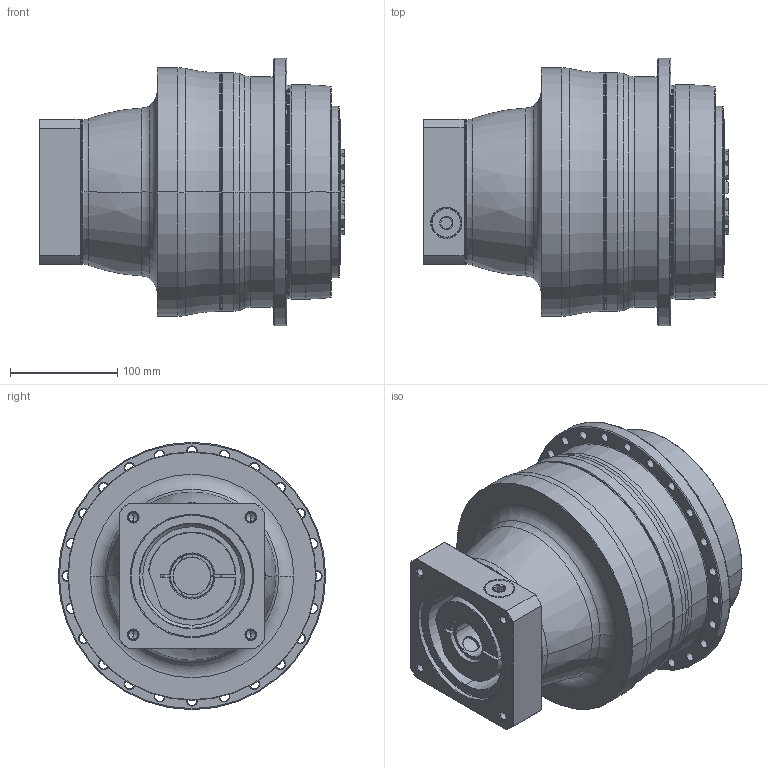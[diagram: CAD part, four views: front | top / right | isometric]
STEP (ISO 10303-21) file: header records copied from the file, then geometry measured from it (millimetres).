
FILE_DESCRIPTION((''),'2;1');
FILE_NAME('APC200_3ST_35-P0409800201_ASM','2018-07-05T',('d01226'),(''),'PRO/ENGINEER BY PARAMETRIC TECHNOLOGY CORPORATION, 2008410','PRO/ENGINEER BY PARAMETRIC TECHNOLOGY CORPORATION, 2008410','');
FILE_SCHEMA(('CONFIG_CONTROL_DESIGN'));
Length unit declared in the file: millimetre
Products named in the file (9): P0278601003; P0359660103; P1366600401; P0503800012; P0912404001; P1211600001; P0409800201; 21711422019; APC200_3ST_35-P0409800201_ASM
Assembly tree (8 placements, depth 2):
  APC200_3ST_35-P0409800201_ASM
    P0278601003
    P0359660103
    P1366600401
    P0503800012
    P0912404001
    P1211600001
    P0409800201
    21711422019
Bounding box: 285.1 x 249.5 x 249.5 mm (x, y, z)
Volume: 8079191.9 mm3; surface area: 563186.2 mm2
Topology: 9 solids, 19 shells, 676 faces, 1615 edges, 979 vertices
Faces by surface type: cone 224, cylinder 208, plane 120, torus 108, bspline 16
Entity records: 24944 total; most frequent: CARTESIAN_POINT 8827, DIRECTION 3623, ORIENTED_EDGE 3152, EDGE_CURVE 1597, AXIS2_PLACEMENT_3D 1574, VERTEX_POINT 979, CIRCLE 887, EDGE_LOOP 778
